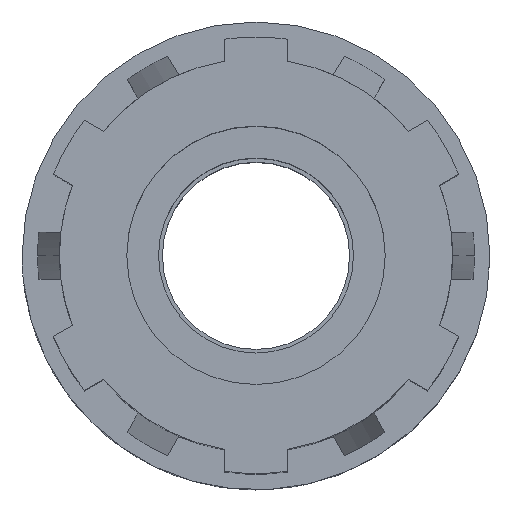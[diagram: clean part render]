
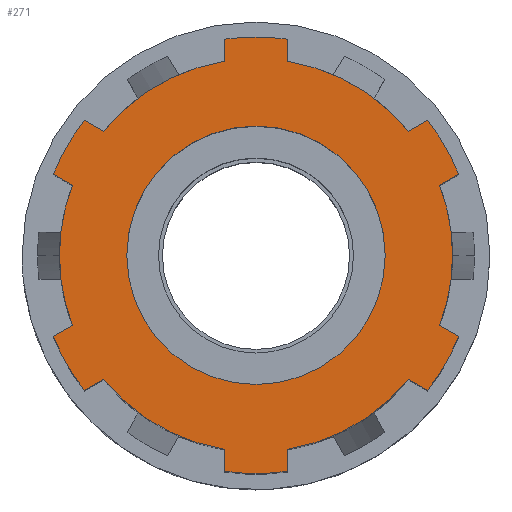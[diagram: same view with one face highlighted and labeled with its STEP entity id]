
A CAD part, top view. The second image highlights one B-rep face of the part: STEP entity #271.
In plain terms, the highlighted planar face has unit normal (0, 0, 1).
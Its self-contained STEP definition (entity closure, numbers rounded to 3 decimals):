
#271=ADVANCED_FACE('0:35',(#541,#542),#543,.T.);
#541=FACE_BOUND('',#832,.T.);
#542=FACE_OUTER_BOUND('',#833,.T.);
#543=PLANE('',#834);
#832=EDGE_LOOP('',(#1330,#1331));
#833=EDGE_LOOP('',(#1332,#1333,#1334,#1335,#1336,#1337,#1338,#1339,#1340,#1341,#1342,#1343,#1344,#1345,#1346,#1347,#1348,#1349,#1350,#1351,#1352,#1353,#1354,#1355,#1356,#1357));
#834=AXIS2_PLACEMENT_3D('',#1358,#1359,#1360);
#1330=ORIENTED_EDGE('',*,*,#1947,.T.);
#1331=ORIENTED_EDGE('',*,*,#1798,.T.);
#1332=ORIENTED_EDGE('',*,*,#1816,.F.);
#1333=ORIENTED_EDGE('',*,*,#1894,.T.);
#1334=ORIENTED_EDGE('',*,*,#1948,.T.);
#1335=ORIENTED_EDGE('',*,*,#1804,.T.);
#1336=ORIENTED_EDGE('',*,*,#1890,.F.);
#1337=ORIENTED_EDGE('',*,*,#1772,.T.);
#1338=ORIENTED_EDGE('',*,*,#1916,.T.);
#1339=ORIENTED_EDGE('',*,*,#1900,.T.);
#1340=ORIENTED_EDGE('',*,*,#1949,.F.);
#1341=ORIENTED_EDGE('',*,*,#1827,.T.);
#1342=ORIENTED_EDGE('',*,*,#1857,.T.);
#1343=ORIENTED_EDGE('',*,*,#1950,.T.);
#1344=ORIENTED_EDGE('',*,*,#1951,.T.);
#1345=ORIENTED_EDGE('',*,*,#1822,.F.);
#1346=ORIENTED_EDGE('',*,*,#1952,.T.);
#1347=ORIENTED_EDGE('',*,*,#1953,.T.);
#1348=ORIENTED_EDGE('',*,*,#1851,.T.);
#1349=ORIENTED_EDGE('',*,*,#1954,.F.);
#1350=ORIENTED_EDGE('',*,*,#1955,.T.);
#1351=ORIENTED_EDGE('',*,*,#1844,.T.);
#1352=ORIENTED_EDGE('',*,*,#1956,.T.);
#1353=ORIENTED_EDGE('',*,*,#1957,.F.);
#1354=ORIENTED_EDGE('',*,*,#1929,.T.);
#1355=ORIENTED_EDGE('',*,*,#1958,.T.);
#1356=ORIENTED_EDGE('',*,*,#1922,.T.);
#1357=ORIENTED_EDGE('',*,*,#1944,.T.);
#1358=CARTESIAN_POINT('',(522.864,476.726,25.0));
#1359=DIRECTION('',(0.0,0.0,1.0));
#1360=DIRECTION('',(1.0,-0.0,0.0));
#1772=EDGE_CURVE('',#2096,#2094,#2097,.F.);
#1798=EDGE_CURVE('',#2133,#2137,#2139,.F.);
#1804=EDGE_CURVE('',#2150,#2148,#2151,.T.);
#1816=EDGE_CURVE('',#2170,#2172,#2173,.T.);
#1822=EDGE_CURVE('',#2180,#2182,#2183,.T.);
#1827=EDGE_CURVE('',#2191,#2189,#2192,.F.);
#1844=EDGE_CURVE('',#2218,#2216,#2219,.T.);
#1851=EDGE_CURVE('',#2230,#2228,#2231,.T.);
#1857=EDGE_CURVE('',#2189,#2238,#2240,.T.);
#1890=EDGE_CURVE('',#2096,#2148,#2291,.T.);
#1894=EDGE_CURVE('',#2170,#2295,#2297,.F.);
#1900=EDGE_CURVE('',#2307,#2305,#2308,.T.);
#1916=EDGE_CURVE('',#2094,#2307,#2330,.T.);
#1922=EDGE_CURVE('',#2337,#2335,#2338,.T.);
#1929=EDGE_CURVE('',#2350,#2348,#2351,.F.);
#1944=EDGE_CURVE('',#2335,#2172,#2371,.T.);
#1947=EDGE_CURVE('',#2137,#2133,#2374,.F.);
#1948=EDGE_CURVE('',#2295,#2150,#2375,.T.);
#1949=EDGE_CURVE('',#2191,#2305,#2376,.T.);
#1950=EDGE_CURVE('',#2238,#2377,#2378,.T.);
#1951=EDGE_CURVE('',#2377,#2182,#2379,.T.);
#1952=EDGE_CURVE('',#2180,#2380,#2381,.F.);
#1953=EDGE_CURVE('',#2380,#2230,#2382,.T.);
#1954=EDGE_CURVE('',#2383,#2228,#2384,.T.);
#1955=EDGE_CURVE('',#2383,#2218,#2385,.F.);
#1956=EDGE_CURVE('',#2216,#2386,#2387,.T.);
#1957=EDGE_CURVE('',#2350,#2386,#2388,.T.);
#1958=EDGE_CURVE('',#2348,#2337,#2389,.T.);
#2094=VERTEX_POINT('',#2561);
#2096=VERTEX_POINT('',#2564);
#2097=CIRCLE('',#2565,14.0);
#2133=VERTEX_POINT('',#2618);
#2137=VERTEX_POINT('',#2623);
#2139=CIRCLE('',#2626,8.285);
#2148=VERTEX_POINT('',#2636);
#2150=VERTEX_POINT('',#2639);
#2151=CIRCLE('',#2640,12.6);
#2170=VERTEX_POINT('',#2674);
#2172=VERTEX_POINT('',#2677);
#2173=LINE('',#2678,#2679);
#2180=VERTEX_POINT('',#2688);
#2182=VERTEX_POINT('',#2691);
#2183=LINE('',#2692,#2693);
#2189=VERTEX_POINT('',#2700);
#2191=VERTEX_POINT('',#2703);
#2192=CIRCLE('',#2704,14.0);
#2216=VERTEX_POINT('',#2737);
#2218=VERTEX_POINT('',#2740);
#2219=LINE('',#2741,#2742);
#2228=VERTEX_POINT('',#2753);
#2230=VERTEX_POINT('',#2756);
#2231=CIRCLE('',#2757,12.6);
#2238=VERTEX_POINT('',#2766);
#2240=LINE('',#2769,#2770);
#2291=LINE('',#2866,#2867);
#2295=VERTEX_POINT('',#2871);
#2297=CIRCLE('',#2874,14.0);
#2305=VERTEX_POINT('',#2883);
#2307=VERTEX_POINT('',#2886);
#2308=CIRCLE('',#2887,12.6);
#2330=LINE('',#2924,#2925);
#2335=VERTEX_POINT('',#2930);
#2337=VERTEX_POINT('',#2933);
#2338=CIRCLE('',#2934,12.6);
#2348=VERTEX_POINT('',#2946);
#2350=VERTEX_POINT('',#2949);
#2351=CIRCLE('',#2950,14.0);
#2371=CIRCLE('',#2978,12.6);
#2374=CIRCLE('',#2981,8.285);
#2375=LINE('',#2982,#2983);
#2376=LINE('',#2984,#2985);
#2377=VERTEX_POINT('',#2986);
#2378=CIRCLE('',#2987,12.6);
#2379=CIRCLE('',#2988,12.6);
#2380=VERTEX_POINT('',#2989);
#2381=CIRCLE('',#2990,14.0);
#2382=LINE('',#2991,#2992);
#2383=VERTEX_POINT('',#2993);
#2384=LINE('',#2994,#2995);
#2385=CIRCLE('',#2996,14.0);
#2386=VERTEX_POINT('',#2997);
#2387=CIRCLE('',#2998,12.6);
#2388=LINE('',#2999,#3000);
#2389=LINE('',#3001,#3002);
#2561=CARTESIAN_POINT('',(524.864,462.87,25.0));
#2564=CARTESIAN_POINT('',(520.864,462.87,25.0));
#2565=AXIS2_PLACEMENT_3D('',#3211,#3212,#3213);
#2618=CARTESIAN_POINT('',(514.579,476.726,25.0));
#2623=CARTESIAN_POINT('',(531.149,476.726,25.0));
#2626=AXIS2_PLACEMENT_3D('',#3248,#3249,#3250);
#2636=CARTESIAN_POINT('',(520.864,464.286,25.0));
#2639=CARTESIAN_POINT('',(513.091,468.774,25.0));
#2640=AXIS2_PLACEMENT_3D('',#3259,#3260,#3261);
#2674=CARTESIAN_POINT('',(509.864,471.53,25.0));
#2677=CARTESIAN_POINT('',(511.091,472.238,25.0));
#2678=CARTESIAN_POINT('',(510.302,471.783,25.0));
#2679=VECTOR('',#3272,0.001);
#2688=CARTESIAN_POINT('',(535.864,481.923,25.0));
#2691=CARTESIAN_POINT('',(534.638,481.215,25.0));
#2692=CARTESIAN_POINT('',(535.427,481.67,25.0));
#2693=VECTOR('',#3276,0.001);
#2700=CARTESIAN_POINT('',(535.864,471.53,25.0));
#2703=CARTESIAN_POINT('',(533.864,468.066,25.0));
#2704=AXIS2_PLACEMENT_3D('',#3282,#3283,#3284);
#2737=CARTESIAN_POINT('',(520.864,489.167,25.0));
#2740=CARTESIAN_POINT('',(520.864,490.583,25.0));
#2741=CARTESIAN_POINT('',(520.864,490.077,25.0));
#2742=VECTOR('',#3301,0.001);
#2753=CARTESIAN_POINT('',(524.864,489.167,25.0));
#2756=CARTESIAN_POINT('',(532.638,484.679,25.0));
#2757=AXIS2_PLACEMENT_3D('',#3311,#3312,#3313);
#2766=CARTESIAN_POINT('',(534.638,472.238,25.0));
#2769=CARTESIAN_POINT('',(535.427,471.783,25.0));
#2770=VECTOR('',#3320,0.001);
#2866=CARTESIAN_POINT('',(520.864,463.375,25.0));
#2867=VECTOR('',#3363,0.001);
#2871=CARTESIAN_POINT('',(511.864,468.066,25.0));
#2874=AXIS2_PLACEMENT_3D('',#3368,#3369,#3370);
#2883=CARTESIAN_POINT('',(532.638,468.774,25.0));
#2886=CARTESIAN_POINT('',(524.864,464.286,25.0));
#2887=AXIS2_PLACEMENT_3D('',#3379,#3380,#3381);
#2924=CARTESIAN_POINT('',(524.864,463.375,25.0));
#2925=VECTOR('',#3400,0.001);
#2930=CARTESIAN_POINT('',(510.264,476.726,25.0));
#2933=CARTESIAN_POINT('',(511.091,481.215,25.0));
#2934=AXIS2_PLACEMENT_3D('',#3408,#3409,#3410);
#2946=CARTESIAN_POINT('',(509.864,481.923,25.0));
#2949=CARTESIAN_POINT('',(511.864,485.387,25.0));
#2950=AXIS2_PLACEMENT_3D('',#3420,#3421,#3422);
#2978=AXIS2_PLACEMENT_3D('',#3437,#3438,#3439);
#2981=AXIS2_PLACEMENT_3D('',#3440,#3441,#3442);
#2982=CARTESIAN_POINT('',(512.302,468.319,25.0));
#2983=VECTOR('',#3443,0.001);
#2984=CARTESIAN_POINT('',(533.427,468.319,25.0));
#2985=VECTOR('',#3444,0.001);
#2986=CARTESIAN_POINT('',(535.464,476.726,25.0));
#2987=AXIS2_PLACEMENT_3D('',#3445,#3446,#3447);
#2988=AXIS2_PLACEMENT_3D('',#3448,#3449,#3450);
#2989=CARTESIAN_POINT('',(533.864,485.387,25.0));
#2990=AXIS2_PLACEMENT_3D('',#3451,#3452,#3453);
#2991=CARTESIAN_POINT('',(533.427,485.134,25.0));
#2992=VECTOR('',#3454,0.001);
#2993=CARTESIAN_POINT('',(524.864,490.583,25.0));
#2994=CARTESIAN_POINT('',(524.864,490.077,25.0));
#2995=VECTOR('',#3455,0.001);
#2996=AXIS2_PLACEMENT_3D('',#3456,#3457,#3458);
#2997=CARTESIAN_POINT('',(513.091,484.679,25.0));
#2998=AXIS2_PLACEMENT_3D('',#3459,#3460,#3461);
#2999=CARTESIAN_POINT('',(512.302,485.134,25.0));
#3000=VECTOR('',#3462,0.001);
#3001=CARTESIAN_POINT('',(510.302,481.67,25.0));
#3002=VECTOR('',#3463,0.001);
#3211=CARTESIAN_POINT('',(522.864,476.726,25.0));
#3212=DIRECTION('',(-0.0,0.0,-1.0));
#3213=DIRECTION('',(-1.0,0.0,0.0));
#3248=CARTESIAN_POINT('',(522.864,476.726,25.0));
#3249=DIRECTION('',(0.0,0.0,1.0));
#3250=DIRECTION('',(1.0,0.0,0.0));
#3259=CARTESIAN_POINT('',(522.864,476.726,25.0));
#3260=DIRECTION('',(0.0,0.0,1.0));
#3261=DIRECTION('',(1.0,0.0,0.0));
#3272=DIRECTION('',(0.866,0.5,0.0));
#3276=DIRECTION('',(-0.866,-0.5,0.0));
#3282=CARTESIAN_POINT('',(522.864,476.726,25.0));
#3283=DIRECTION('',(-0.0,0.0,-1.0));
#3284=DIRECTION('',(-1.0,0.0,0.0));
#3301=DIRECTION('',(0.,-1.,0.0));
#3311=CARTESIAN_POINT('',(522.864,476.726,25.0));
#3312=DIRECTION('',(0.0,0.0,1.0));
#3313=DIRECTION('',(1.0,0.0,0.0));
#3320=DIRECTION('',(-0.866,0.5,0.0));
#3363=DIRECTION('',(0.,1.,0.0));
#3368=CARTESIAN_POINT('',(522.864,476.726,25.0));
#3369=DIRECTION('',(-0.0,0.0,-1.0));
#3370=DIRECTION('',(-1.0,0.0,0.0));
#3379=CARTESIAN_POINT('',(522.864,476.726,25.0));
#3380=DIRECTION('',(0.0,0.0,1.0));
#3381=DIRECTION('',(1.0,0.0,0.0));
#3400=DIRECTION('',(0.,1.,0.0));
#3408=CARTESIAN_POINT('',(522.864,476.726,25.0));
#3409=DIRECTION('',(0.0,0.0,1.0));
#3410=DIRECTION('',(1.0,0.0,0.0));
#3420=CARTESIAN_POINT('',(522.864,476.726,25.0));
#3421=DIRECTION('',(-0.0,0.0,-1.0));
#3422=DIRECTION('',(-1.0,0.0,0.0));
#3437=CARTESIAN_POINT('',(522.864,476.726,25.0));
#3438=DIRECTION('',(0.0,0.0,1.0));
#3439=DIRECTION('',(1.0,0.0,0.0));
#3440=CARTESIAN_POINT('',(522.864,476.726,25.0));
#3441=DIRECTION('',(0.0,0.0,1.0));
#3442=DIRECTION('',(1.0,0.0,0.0));
#3443=DIRECTION('',(0.866,0.5,0.0));
#3444=DIRECTION('',(-0.866,0.5,0.0));
#3445=CARTESIAN_POINT('',(522.864,476.726,25.0));
#3446=DIRECTION('',(0.0,0.0,1.0));
#3447=DIRECTION('',(1.0,0.0,0.0));
#3448=CARTESIAN_POINT('',(522.864,476.726,25.0));
#3449=DIRECTION('',(0.0,0.0,1.0));
#3450=DIRECTION('',(1.0,0.0,0.0));
#3451=CARTESIAN_POINT('',(522.864,476.726,25.0));
#3452=DIRECTION('',(-0.0,0.0,-1.0));
#3453=DIRECTION('',(-1.0,0.0,0.0));
#3454=DIRECTION('',(-0.866,-0.5,0.0));
#3455=DIRECTION('',(0.,-1.,0.0));
#3456=CARTESIAN_POINT('',(522.864,476.726,25.0));
#3457=DIRECTION('',(-0.0,0.0,-1.0));
#3458=DIRECTION('',(-1.0,0.0,0.0));
#3459=CARTESIAN_POINT('',(522.864,476.726,25.0));
#3460=DIRECTION('',(0.0,0.0,1.0));
#3461=DIRECTION('',(1.0,0.0,0.0));
#3462=DIRECTION('',(0.866,-0.5,0.0));
#3463=DIRECTION('',(0.866,-0.5,0.0));
